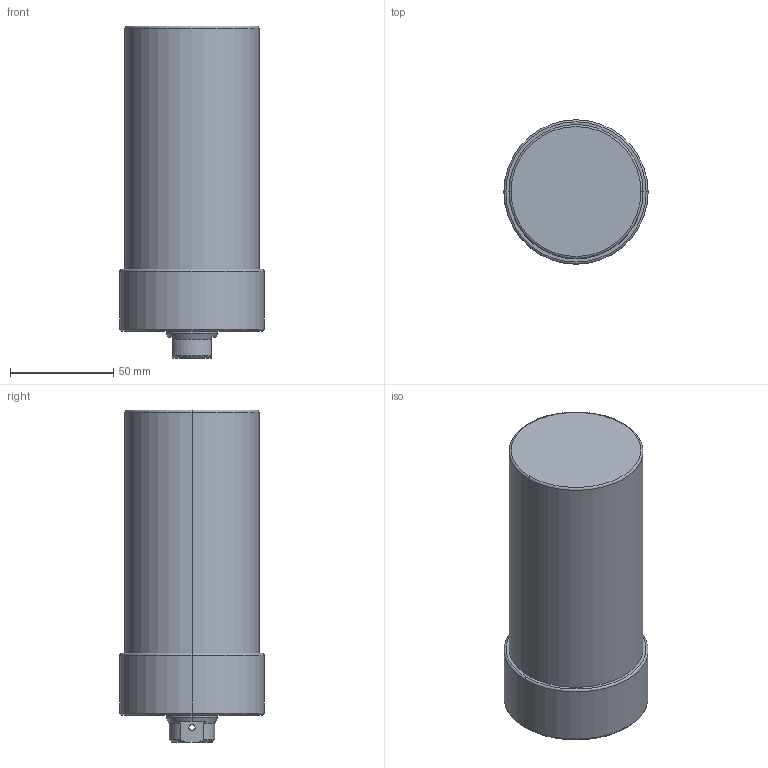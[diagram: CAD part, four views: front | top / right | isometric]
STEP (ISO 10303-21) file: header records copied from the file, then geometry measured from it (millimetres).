
FILE_DESCRIPTION (( 'STEP AP203' ), '1' );
FILE_NAME ('CLLU-065GB-085.STEP', '2020-01-07T06:38:58', ( '' ), ( '' ), 'SwSTEP 2.0', 'SolidWorks 2015', '' );
FILE_SCHEMA (( 'CONFIG_CONTROL_DESIGN' ));
Length unit declared in the file: millimetre
Products named in the file (1): CLLU-065GB-085
Bounding box: 70 x 70 x 161 mm (x, y, z)
Volume: 507385.2 mm3; surface area: 41177.3 mm2
Topology: 1 solids, 1 shells, 66 faces, 154 edges, 87 vertices
Faces by surface type: cylinder 26, cone 24, plane 10, torus 6
Entity records: 2001 total; most frequent: CARTESIAN_POINT 430, DIRECTION 342, ORIENTED_EDGE 288, EDGE_CURVE 144, AXIS2_PLACEMENT_3D 143, VERTEX_POINT 87, EDGE_LOOP 77, CIRCLE 76
